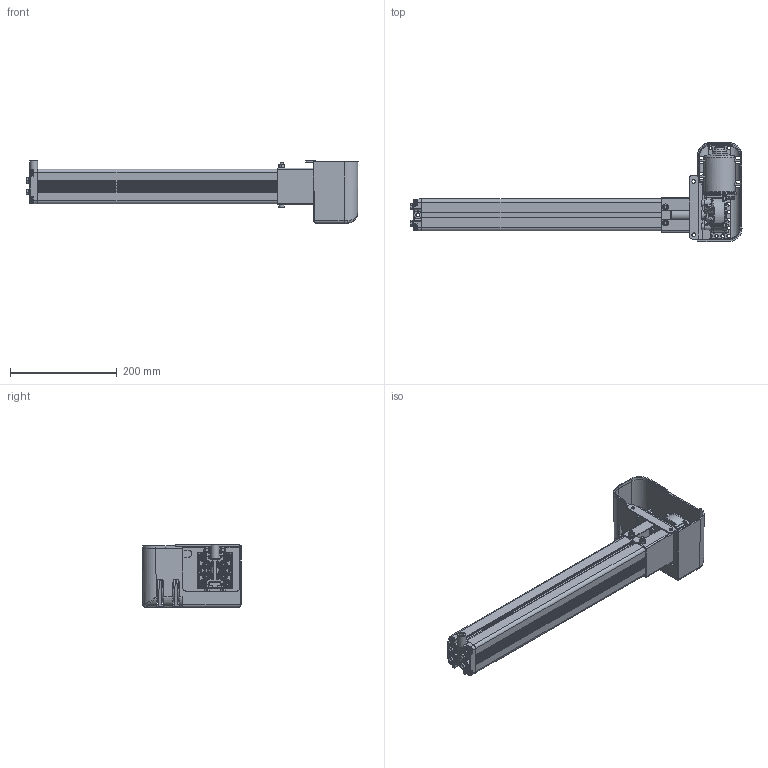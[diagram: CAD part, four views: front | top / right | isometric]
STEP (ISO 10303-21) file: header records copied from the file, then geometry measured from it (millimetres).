
FILE_DESCRIPTION(/* description */ ('Unknown'),/* implementation_level */ '2;1');
FILE_NAME(/* name */ '3X3.20033 Pumpe PF 4830 W mit Antrieb',/* time_stamp */ '2020-02-14T10:30:01+01:00',/* author */ ('Unknown'),/* organization */ ('Unknown'),/* preprocessor_version */ 'ST-DEVELOPER v16.7',/* originating_system */ 'DEX',/* authorisation */ $);
FILE_SCHEMA (('AUTOMOTIVE_DESIGN {1 0 10303 214 3 1 1}'));
Products named in the file (38): 103.20033; 115.10053_oa_0; 125.00126; 115.00008_oa_1; 142.00021; 125.00021; 115.10053_oa_2; 115.00008_oa_3; 142.00013; 115.10053_oa_4; 115.00008_oa_5; 115.10053_oa_6; 115.00008_oa_7; 142.00057; 125.00143; 115.00141; 126.00076; 122.00004; 119.00353; 126.00075; 112.0014X; 127.00315; Blechteil 2 PFD; Blechteil 1_Bügel PFD; 124.00090; Getriebe; Ring; Schraube; Stator; Abdeckplatte; Antriebswelle; 128.00051; 142.00018; 142.00019; 142.00228; 142.00131; 123.00029; 123.00048
Assembly tree (58 placements, depth 4):
  103.20033
    115.10053_oa_0
      125.00126
      115.00008_oa_1
      142.00021
      125.00021
    115.10053_oa_2
      125.00126
      115.00008_oa_3
      142.00021
      125.00021
    142.00013  x8
    115.10053_oa_4
      125.00126
      115.00008_oa_5
      142.00021
      125.00021
    115.10053_oa_6
      125.00126
      115.00008_oa_7
      142.00021
      125.00021
    142.00057
    125.00143
    115.00141
      126.00076
      122.00004
    119.00353
    126.00075
    112.0014X
      127.00315
        Blechteil 2 PFD
        Blechteil 1_Bügel PFD
      124.00090
        Getriebe
        Ring
        Schraube
        Stator
        Abdeckplatte
        Antriebswelle
      128.00051
      142.00018  x2
      142.00019  x2
      142.00228  x2
      142.00131  x3
      123.00029
    123.00048
Bounding box: 623.42 x 186.04 x 117.45 mm (x, y, z)
Volume: 1070128.3 mm3; surface area: 645305 mm2
Topology: 46 solids, 48 shells, 4623 faces, 12048 edges, 7439 vertices
Faces by surface type: plane 1557, cylinder 1236, bspline 1115, cone 463, torus 200, sphere 52
Full cylindrical faces by diameter (mm): 2.5 x4, 3.2 x4, 3.5 x4, 3.9 x5, 4.1 x4, 4.2 x6, 4.4 x5, 4.5 x1, 4.917 x2, 5 x8, 5.5 x5, 6 x6, 6.4 x2, 6.8 x9, 6.917 x8, 7 x1, 8 x10, 8.5 x2, 9 x2, 9.5 x1, 9.8 x8, 10 x8, 10.3 x1, 10.32 x1, 10.4 x1, 11 x5, 13 x4, 14 x3, 14.4 x4, 15 x1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
Entity records: 195030 total; most frequent: CARTESIAN_POINT 110220, ORIENTED_EDGE 19068, DIRECTION 14158, EDGE_CURVE 9534, VERTEX_POINT 6254, AXIS2_PLACEMENT_3D 5212, FACE_BOUND 4444, EDGE_LOOP 4439
